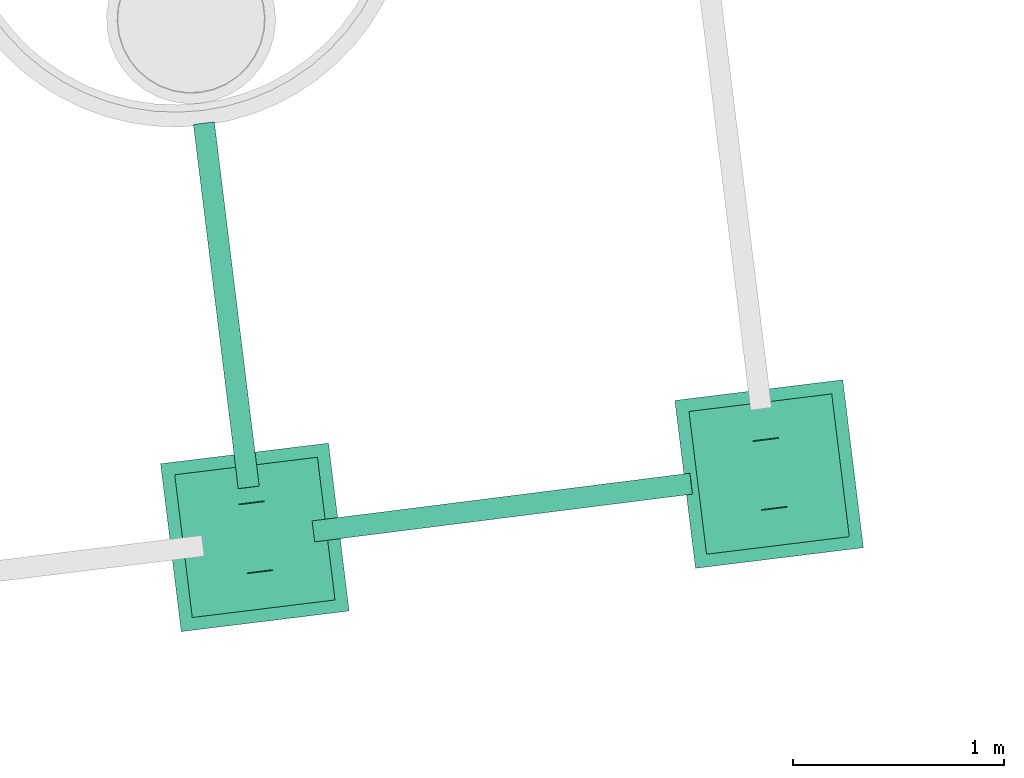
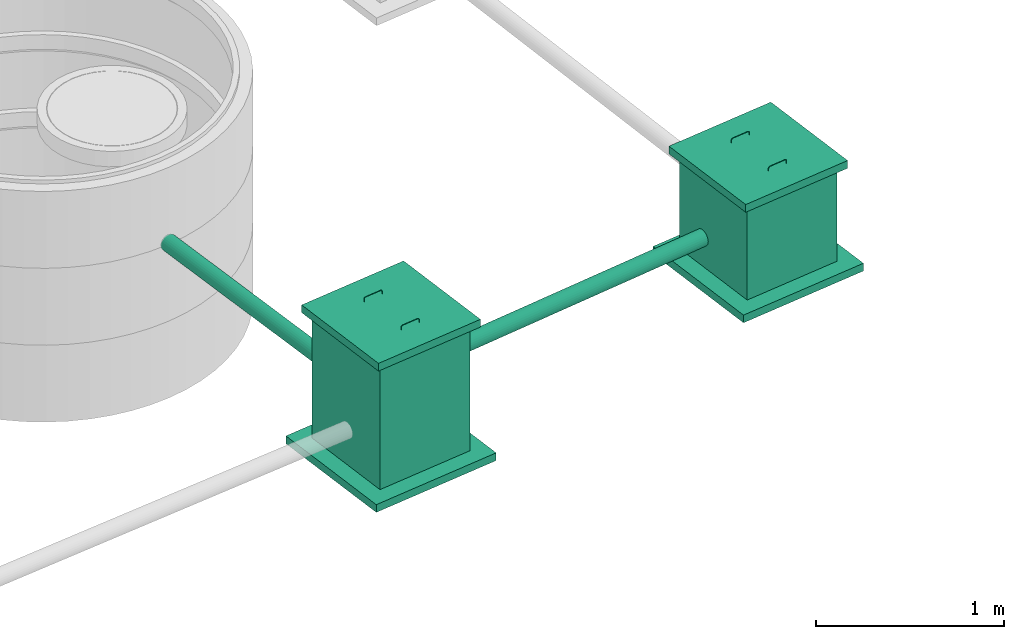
# One storey, part 6 of 97: 2 flow segments, 2 flow terminals.
"""IFC2X3 building model written with IfcOpenShell, lengths in centimetres."""

from ifc_helpers import new_model, entity, si_unit, converted_unit, derived_unit, direction, frame, frame_2d, origin, place, context, subcontext, project, spatial, circle, extrude, faceted_brep, source, transform, mapped, material, material_list, type_object, type_shapes, element, save


model = new_model("IFC2X3")

# Units and contexts
model_context = context("Model", 3, precision=0.001, world=origin(), true_north=direction((6.12303176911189e-17, 1.0)))
body_context = subcontext(model_context, "Body", "Model", "MODEL_VIEW")
ifc_project = project(units=[si_unit("LENGTHUNIT", "METRE", prefix="CENTI"), si_unit("AREAUNIT", "SQUARE_METRE"), si_unit("VOLUMEUNIT", "CUBIC_METRE"), converted_unit("PLANEANGLEUNIT", "DEGREE", entity("IfcRatioMeasure", 0.0174532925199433), si_unit("PLANEANGLEUNIT", "RADIAN"), dimensions=[0, 0, 0, 0, 0, 0, 0]), si_unit("MASSUNIT", "GRAM", prefix="KILO"), derived_unit("MASSDENSITYUNIT", [(si_unit("MASSUNIT", "GRAM", prefix="KILO"), 1), (si_unit("LENGTHUNIT", "METRE"), -3)]), derived_unit("MOMENTOFINERTIAUNIT", [(si_unit("LENGTHUNIT", "METRE"), 4)]), si_unit("TIMEUNIT", "SECOND"), si_unit("FREQUENCYUNIT", "HERTZ"), si_unit("THERMODYNAMICTEMPERATUREUNIT", "DEGREE_CELSIUS"), derived_unit("THERMALTRANSMITTANCEUNIT", [(si_unit("MASSUNIT", "GRAM", prefix="KILO"), 1), (si_unit("THERMODYNAMICTEMPERATUREUNIT", "KELVIN"), -1), (si_unit("TIMEUNIT", "SECOND"), -3)]), derived_unit("VOLUMETRICFLOWRATEUNIT", [(si_unit("LENGTHUNIT", "METRE"), 3), (si_unit("TIMEUNIT", "SECOND"), -1)]), si_unit("ELECTRICCURRENTUNIT", "AMPERE"), si_unit("ELECTRICVOLTAGEUNIT", "VOLT"), si_unit("POWERUNIT", "WATT"), si_unit("FORCEUNIT", "NEWTON", prefix="KILO"), si_unit("ILLUMINANCEUNIT", "LUX"), si_unit("LUMINOUSFLUXUNIT", "LUMEN"), si_unit("LUMINOUSINTENSITYUNIT", "CANDELA"), derived_unit("USERDEFINED", [(si_unit("MASSUNIT", "GRAM", prefix="KILO"), -1), (si_unit("LENGTHUNIT", "METRE"), -2), (si_unit("TIMEUNIT", "SECOND"), 3), (si_unit("LUMINOUSFLUXUNIT", "LUMEN"), 1)]), derived_unit("LINEARVELOCITYUNIT", [(si_unit("LENGTHUNIT", "METRE"), 1), (si_unit("TIMEUNIT", "SECOND"), -1)]), si_unit("PRESSUREUNIT", "PASCAL"), derived_unit("USERDEFINED", [(si_unit("LENGTHUNIT", "METRE"), -2), (si_unit("MASSUNIT", "GRAM", prefix="KILO"), 1), (si_unit("TIMEUNIT", "SECOND"), -2)]), derived_unit("LINEARFORCEUNIT", [(si_unit("MASSUNIT", "GRAM", prefix="KILO"), 1), (si_unit("LENGTHUNIT", "METRE"), 1), (si_unit("TIMEUNIT", "SECOND"), -2), (si_unit("LENGTHUNIT", "METRE"), -1)]), derived_unit("PLANARFORCEUNIT", [(si_unit("MASSUNIT", "GRAM", prefix="KILO"), 1), (si_unit("LENGTHUNIT", "METRE"), 1), (si_unit("TIMEUNIT", "SECOND"), -2), (si_unit("LENGTHUNIT", "METRE"), -2)])], contexts=[model_context])

# Site, building, storey
site_placement = place(None, origin())
site = spatial("IfcSite", under=ifc_project, at=site_placement, Name="Default", CompositionType="ELEMENT")
building_placement = place(site_placement, origin())
building = spatial("IfcBuilding", under=site, at=building_placement, Name="HIDROSSANITÁRIO", CompositionType="ELEMENT")
storey_placement = place(building_placement, frame((0.0, 0.0, -260.0)))
storey = spatial("IfcBuildingStorey", under=building, at=storey_placement, Name="TÉRREO-HID", CompositionType="ELEMENT", Elevation=-260.0)

# Flow segments
pipe_segment_type = type_object("IfcPipeSegmentType", Name="Tipos de tubos:Tubo - Esgoto - Série Normal", PredefinedType="NOTDEFINED")
flow_segment_1_placement = place(storey_placement, origin())
element("IfcFlowSegment", 1, at=flow_segment_1_placement, inside=storey, type_object=pipe_segment_type, Name="Tipos de tubos:Tubo - Esgoto - Série Normal", ObjectType="Tipos de tubos:Tubo - Esgoto - Série Normal", context=body_context, shape_type="SweptSolid", body=[
    extrude(circle(Radius=5.0, at=frame_2d((-1.35643314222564e-14, -1.07427899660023e-15), x_axis=(1.0, 0.0))), frame((574.677548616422, 2803.41653285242, -34.7999011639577), z_axis=(0.992073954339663, 0.125256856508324, 0.00999945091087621), x_axis=(-0.125263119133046, 0.992123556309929, 0.0)), (0.0, 0.0, 1.0), 180.000000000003),
])
flow_segment_2_placement = place(storey_placement, origin())
element("IfcFlowSegment", 2, at=flow_segment_2_placement, inside=storey, type_object=pipe_segment_type, Name="Tipos de tubos:Tubo - Esgoto - Série Normal", ObjectType="Tipos de tubos:Tubo - Esgoto - Série Normal", context=body_context, shape_type="SweptSolid", body=[
    extrude(circle(Radius=5.0, at=frame_2d((5.29099387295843e-14, 4.29881674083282e-15), x_axis=(1.0, 0.0))), frame((522.855228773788, 2996.38994779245, -58.7349132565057), z_axis=(0.122146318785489, -0.992461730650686, 0.00999950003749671), x_axis=(0.992511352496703, 0.122152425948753, 0.0)), (0.0, 0.0, 1.0), 173.500000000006),
])

# Flow terminals
ifc_material_1 = material(Name="<Unnamed>")
ifc_material_2 = material(Name="Concrete, Sand/Cement Screed")
ifc_material_3 = material(Name="Brick, Common, Grey")
ifc_material_list_1 = material_list([ifc_material_1, ifc_material_2, ifc_material_3])
ifc_material_list_2 = material_list([ifc_material_1, ifc_material_2, ifc_material_3])
distribution_element_type_1 = type_object("IfcDistributionElementType", Name="Caixa de Inspeção/Gordura:Alvenaria", material=ifc_material_list_2)
shared_shape_1 = source(origin(), body_context, "Body", "Brep", [
    faceted_brep([(-5.60146522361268, 16.5924553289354, 3.71042168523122), (-5.40613785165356, 16.3971279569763, 3.71042168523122), (-5.60146522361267, 16.2018005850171, 3.71042168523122), (-5.79679259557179, 16.3971279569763, 3.71042168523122), (6.39853477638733, 16.2018005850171, 3.71042168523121), (6.20320740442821, 16.3971279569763, 3.71042168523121), (6.39853477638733, 16.5924553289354, 3.71042168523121), (6.59386214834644, 16.3971279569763, 3.71042168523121), (-5.40613785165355, 16.3971279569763, 5.27042602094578), (-5.57070403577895, 16.2042380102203, 5.71042174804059), (-5.79679259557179, 16.3971279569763, 5.27042593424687), (-5.40613785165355, 16.3971279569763, 7.71042168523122), (-5.60146522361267, 16.2018005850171, 7.71042168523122), (-5.40613785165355, 16.3971279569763, 6.1504173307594), (-5.79679259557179, 16.3971279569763, 7.71042168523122), (-5.60146522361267, 16.5924553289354, 7.71042168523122), (-5.63222641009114, 16.5900179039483, 5.71042169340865), (-5.68947233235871, 16.5044482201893, 7.71042168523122), (-5.25102598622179, 16.2195619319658, 8.35998244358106), (-5.37993713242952, 16.2298951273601, 8.48889359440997), (-4.60146522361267, 16.3971279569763, 8.90574905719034), (-4.60146522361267, 16.2018005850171, 8.71042168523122), (-5.17045469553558, 16.3971279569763, 8.27941115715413), (-4.60146522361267, 16.3971279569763, 8.5150943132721), (-5.44668931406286, 16.3971279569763, 8.55564577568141), (-5.36898819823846, 16.5727768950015, 8.47794465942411), (-5.21737432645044, 16.5627205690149, 8.36172681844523), (-4.60146522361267, 16.5924553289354, 8.71042168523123), (0.518543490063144, 16.3971279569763, 8.90574905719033), (1.73854147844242, 16.2018005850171, 8.71042168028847), (2.95853913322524, 16.3971279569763, 8.90574905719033), (-0.76461087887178, 16.2018577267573, 8.71514602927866), (-2.16146960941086, 16.3971279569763, 8.5150943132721), (0.278526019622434, 16.3971279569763, 8.5150943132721), (0.398534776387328, 16.3971279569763, 8.5150943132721), (-2.16146958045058, 16.3971279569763, 8.90574905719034), (5.39853477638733, 16.2018005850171, 8.71042168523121), (5.39853477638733, 16.3971279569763, 8.90574905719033), (2.95853916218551, 16.3971279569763, 8.5150943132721), (5.39853477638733, 16.3971279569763, 8.51509431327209), (0.398534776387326, 16.3971279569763, 8.90574905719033), (1.56168082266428, 16.5923981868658, 8.70569732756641), (-0.941471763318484, 16.5924553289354, 8.71042168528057), (5.39853477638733, 16.5924553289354, 8.71042168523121), (5.39853477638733, 16.5044482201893, 8.79842879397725), (6.04809553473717, 16.2195619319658, 8.35998244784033), (6.17700668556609, 16.2298951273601, 8.48889359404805), (6.59386214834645, 16.3971279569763, 7.71042168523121), (6.39853477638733, 16.2018005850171, 7.71042168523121), (5.96752424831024, 16.3971279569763, 8.27941115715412), (6.20320740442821, 16.3971279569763, 7.71042168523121), (6.24375886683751, 16.3971279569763, 8.5556457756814), (6.16605775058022, 16.5727768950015, 8.477944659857), (6.04983990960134, 16.5627205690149, 8.32633078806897), (6.39853477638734, 16.5924553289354, 7.71042168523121), (6.20320740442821, 16.3971279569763, 6.15041734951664), (6.36777358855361, 16.2042380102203, 5.71042162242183), (6.59386214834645, 16.3971279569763, 6.15041743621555), (6.20320740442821, 16.3971279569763, 5.27042603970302), (6.4292959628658, 16.5900179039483, 5.71042167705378)], [[[0, 1, 2, 3]], [[4, 5, 6, 7]], [[8, 9, 2]], [[2, 10, 3]], [[10, 2, 9]], [[11, 12, 9]], [[8, 2, 1]], [[9, 8, 13, 11]], [[9, 12, 14]], [[14, 10, 9]], [[13, 15, 11]], [[0, 10, 16]], [[14, 16, 10]], [[10, 0, 3]], [[16, 13, 8, 1]], [[13, 16, 15]], [[1, 0, 16]], [[16, 14, 17, 15]], [[12, 18, 19]], [[20, 19, 21]], [[14, 12, 19]], [[11, 22, 18]], [[23, 21, 18]], [[14, 19, 24]], [[24, 19, 20]], [[23, 18, 22]], [[19, 18, 21]], [[11, 18, 12]], [[17, 14, 24]], [[25, 26, 15]], [[25, 15, 17]], [[11, 15, 26]], [[25, 27, 26]], [[20, 25, 24]], [[20, 27, 25]], [[26, 22, 11]], [[22, 26, 23]], [[17, 24, 25]], [[23, 26, 27]], [[28, 29, 30]], [[31, 32, 33, 34]], [[35, 20, 21]], [[36, 37, 30]], [[29, 28, 31]], [[38, 39, 36]], [[21, 23, 32]], [[34, 29, 31]], [[32, 31, 21]], [[30, 29, 36]], [[34, 38, 29]], [[36, 29, 38]], [[31, 28, 40, 35]], [[31, 35, 21]], [[40, 41, 42]], [[43, 39, 38]], [[27, 42, 33, 32, 23]], [[27, 20, 35, 40, 42]], [[30, 37, 44, 43]], [[38, 41, 43]], [[30, 43, 41]], [[42, 41, 33]], [[41, 40, 28, 30]], [[41, 38, 34, 33]], [[36, 45, 46]], [[47, 46, 48]], [[37, 36, 46]], [[39, 49, 45]], [[50, 48, 45]], [[37, 46, 51]], [[51, 46, 47]], [[50, 45, 49]], [[46, 45, 48]], [[39, 45, 36]], [[44, 37, 51]], [[52, 53, 43]], [[52, 43, 44]], [[39, 43, 53]], [[52, 54, 53]], [[47, 52, 51]], [[47, 54, 52]], [[53, 49, 39]], [[49, 53, 50]], [[44, 51, 52]], [[50, 53, 54]], [[55, 56, 48]], [[48, 57, 47]], [[57, 48, 56]], [[5, 4, 56]], [[55, 48, 50]], [[56, 55, 58, 5]], [[56, 4, 7]], [[7, 57, 56]], [[58, 6, 5]], [[54, 57, 59]], [[7, 59, 57]], [[57, 54, 47]], [[59, 58, 55, 50]], [[58, 59, 6]], [[50, 54, 59]], [[7, 6, 59]]]),
    faceted_brep([(-5.60146522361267, -16.5924553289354, 3.71042168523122), (-5.79679259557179, -16.3971279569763, 3.71042168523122), (-5.60146522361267, -16.2018005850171, 3.71042168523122), (-5.40613785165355, -16.3971279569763, 3.71042168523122), (6.39853477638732, -16.2018005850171, 3.71042168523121), (6.59386214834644, -16.3971279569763, 3.71042168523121), (6.39853477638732, -16.5924553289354, 3.71042168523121), (6.20320740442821, -16.3971279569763, 3.71042168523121), (-5.79679259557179, -16.3971279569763, 6.15041737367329), (-5.60146522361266, -16.5924553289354, 7.71042168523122), (-5.68947233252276, -16.5044482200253, 7.71042168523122), (-5.79679259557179, -16.3971279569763, 7.71042168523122), (-5.40613785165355, -16.3971279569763, 5.27042602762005), (-5.5707040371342, -16.5900179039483, 5.71042169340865), (-5.40613785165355, -16.3971279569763, 7.71042168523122), (-5.79679259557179, -16.3971279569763, 5.27042602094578), (-5.51345811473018, -16.5044482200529, 7.71042168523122), (-5.63222641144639, -16.2042380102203, 5.71042174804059), (-5.60146522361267, -16.2018005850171, 7.71042168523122), (-5.37028554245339, -16.5521831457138, 8.52319636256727), (-5.44668931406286, -16.3971279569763, 8.55564577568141), (-5.17045469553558, -16.3971279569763, 8.27941115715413), (-4.60146522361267, -16.3971279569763, 8.5150943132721), (-4.60146522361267, -16.5044482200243, 8.62241457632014), (-4.60146522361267, -16.5924553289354, 8.71042168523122), (-4.60146522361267, -16.5044482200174, 8.79842879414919), (-5.27261908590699, -16.5857215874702, 8.3815755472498), (-4.60146522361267, -16.3971279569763, 8.90574905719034), (-5.23720687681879, -16.2298951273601, 8.34616333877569), (-4.60146522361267, -16.2018005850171, 8.71042168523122), (-5.36611802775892, -16.2195619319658, 8.4750744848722), (0.398534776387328, -16.3971279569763, 8.5150943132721), (1.56168082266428, -16.5923981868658, 8.71514604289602), (-0.941471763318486, -16.5924553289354, 8.71042168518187), (2.95853912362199, -16.3971279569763, 8.90574905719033), (5.39853477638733, -16.5924553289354, 8.71042168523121), (5.39853477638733, -16.5044482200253, 8.7984287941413), (5.39853477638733, -16.3971279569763, 8.90574905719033), (0.278526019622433, -16.3971279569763, 8.90574905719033), (-2.16146957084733, -16.3971279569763, 8.90574905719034), (-2.16146960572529, -16.3971279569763, 8.5150943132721), (2.95853915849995, -16.3971279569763, 8.51509431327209), (5.39853477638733, -16.3971279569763, 8.51509431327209), (5.39853477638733, -16.5044482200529, 8.62241457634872), (0.518543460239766, -16.3971279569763, 8.5150943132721), (0.398534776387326, -16.3971279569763, 8.90574905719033), (1.73854147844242, -16.2018005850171, 8.71042169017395), (-0.76461087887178, -16.2018577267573, 8.70569734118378), (5.39853477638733, -16.2018005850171, 8.71042168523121), (6.21130945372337, -16.5521831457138, 8.47924200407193), (6.24375886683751, -16.3971279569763, 8.5556457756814), (5.96752424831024, -16.3971279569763, 8.27941115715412), (6.20320740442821, -16.3971279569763, 7.71042168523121), (6.31052766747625, -16.5044482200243, 7.71042168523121), (6.39853477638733, -16.5924553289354, 7.71042168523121), (6.4865418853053, -16.5044482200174, 7.71042168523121), (6.06968863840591, -16.5857215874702, 8.38157554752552), (6.59386214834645, -16.3971279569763, 7.71042168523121), (6.03427642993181, -16.2298951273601, 8.34616333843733), (6.39853477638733, -16.2018005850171, 7.71042168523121), (6.16318757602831, -16.2195619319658, 8.47507448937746), (6.59386214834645, -16.3971279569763, 5.27042599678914), (6.20320740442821, -16.3971279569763, 6.15041726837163), (6.36777358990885, -16.5900179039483, 5.71042167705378), (6.59386214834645, -16.3971279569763, 6.15041734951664), (6.42929596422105, -16.2042380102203, 5.71042162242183)], [[[0, 1, 2, 3]], [[4, 5, 6, 7]], [[8, 9, 10, 11]], [[0, 12, 13]], [[14, 13, 12]], [[12, 0, 3]], [[13, 8, 15, 1]], [[8, 13, 9]], [[1, 0, 13]], [[13, 14, 16, 9]], [[15, 17, 2]], [[2, 12, 3]], [[12, 2, 17]], [[11, 18, 17]], [[15, 2, 1]], [[17, 15, 8, 11]], [[17, 18, 14]], [[14, 12, 17]], [[19, 10, 9]], [[10, 19, 20]], [[21, 22, 23]], [[24, 25, 19]], [[24, 26, 23]], [[24, 19, 26]], [[16, 26, 9]], [[20, 25, 27]], [[20, 11, 10]], [[23, 26, 21]], [[19, 25, 20]], [[14, 21, 16]], [[26, 19, 9]], [[26, 16, 21]], [[22, 28, 29]], [[18, 30, 28]], [[14, 28, 21]], [[14, 18, 28]], [[11, 20, 30]], [[27, 30, 20]], [[27, 29, 30]], [[11, 30, 18]], [[21, 28, 22]], [[28, 30, 29]], [[31, 32, 33]], [[34, 35, 36, 37]], [[24, 33, 38, 39, 27, 25]], [[40, 31, 33, 24, 23, 22]], [[41, 42, 43, 35]], [[34, 32, 35]], [[41, 35, 32]], [[33, 32, 38]], [[32, 31, 44, 41]], [[32, 34, 45, 38]], [[44, 46, 41]], [[47, 39, 38, 45]], [[40, 22, 29]], [[48, 42, 41]], [[46, 44, 47]], [[34, 37, 48]], [[29, 27, 39]], [[45, 46, 47]], [[39, 47, 29]], [[41, 46, 48]], [[45, 34, 46]], [[48, 46, 34]], [[47, 44, 31, 40]], [[47, 40, 29]], [[49, 36, 35]], [[36, 49, 50]], [[51, 52, 53]], [[54, 55, 49]], [[54, 56, 53]], [[54, 49, 56]], [[43, 56, 35]], [[50, 55, 57]], [[50, 37, 36]], [[53, 56, 51]], [[49, 55, 50]], [[42, 51, 43]], [[56, 49, 35]], [[56, 43, 51]], [[52, 58, 59]], [[48, 60, 58]], [[42, 58, 51]], [[42, 48, 58]], [[37, 50, 60]], [[57, 60, 50]], [[57, 59, 60]], [[37, 60, 48]], [[51, 58, 52]], [[58, 60, 59]], [[61, 6, 5]], [[54, 62, 63]], [[7, 63, 62]], [[62, 54, 53, 52]], [[63, 61, 64, 57]], [[61, 63, 6]], [[63, 57, 55, 54]], [[7, 6, 63]], [[64, 65, 59]], [[59, 62, 52]], [[62, 59, 65]], [[5, 4, 65]], [[64, 59, 57]], [[65, 64, 61, 5]], [[65, 4, 7]], [[7, 62, 65]]]),
    faceted_brep([(34.0, 34.0, 6.0), (-34.0, 34.0, 6.0), (-34.0, -34.0, 6.0), (34.0, -34.0, 6.0), (34.0, 34.0, 1.0), (34.0, -34.0, 1.0), (-34.0, -34.0, 1.0), (-34.0, 34.0, 1.0)], [[[0, 1, 2, 3]], [[4, 5, 6, 7]], [[1, 0, 4, 7]], [[2, 1, 7, 6]], [[3, 2, 6, 5]], [[0, 3, 5, 4]]]),
    faceted_brep([(40.0, 40.0, -60.0), (-40.0, 40.0, -60.0), (-40.0, -40.0, -60.0), (40.0, -40.0, -60.0), (40.0, 40.0, -65.0), (40.0, -40.0, -65.0), (-40.0, -40.0, -65.0), (-40.0, 40.0, -65.0)], [[[0, 1, 2, 3]], [[4, 5, 6, 7]], [[1, 0, 4, 7]], [[2, 1, 7, 6]], [[3, 2, 6, 5]], [[0, 3, 5, 4]]]),
    faceted_brep([(25.0, 25.0, 1.0), (25.0, -25.0, 1.0), (-25.0, -25.0, 1.0), (-25.0, 25.0, 1.0), (30.0, 30.0, 1.0), (-30.0, 30.0, 1.0), (-30.0, -30.0, 1.0), (30.0, -30.0, 1.0), (25.0, 25.0, -60.0), (-25.0, 25.0, -60.0), (-25.0, -25.0, -60.0), (25.0, -25.0, -60.0), (30.0, 30.0, -60.0), (30.0, -30.0, -60.0), (-30.0, -30.0, -60.0), (-30.0, 30.0, -60.0)], [[[0, 1, 2, 3], [4, 5, 6, 7]], [[8, 9, 10, 11], [12, 13, 14, 15]], [[1, 0, 8, 11]], [[2, 1, 11, 10]], [[3, 2, 10, 9]], [[0, 3, 9, 8]], [[5, 4, 12, 15]], [[6, 5, 15, 14]], [[7, 6, 14, 13]], [[4, 7, 13, 12]]], outer=[[False, True], [False, True], [True], [True], [True], [True], [True], [True], [True], [True]]),
])
type_shapes(distribution_element_type_1, [shared_shape_1])
flow_terminal_1_placement = place(storey_placement, frame((790.120487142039, 2830.50046257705, 0.0), z_axis=(0.0, 0.0, 1.0), x_axis=(0.992511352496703, 0.122152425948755, 0.0)))
element("IfcFlowTerminal", 3, at=flow_terminal_1_placement, inside=storey, type_object=distribution_element_type_1, material=ifc_material_list_1, Name="Caixa de Inspeção/Gordura:Alvenaria", ObjectType="Caixa de Inspeção/Gordura:Alvenaria", context=body_context, shape_type="MappedRepresentation", body=[
    mapped(shared_shape_1, transform((0.0, 0.0, 0.0), scale=1.0)),
])
ifc_material_list_3 = material_list([ifc_material_1, ifc_material_2, ifc_material_3])
ifc_material_list_4 = material_list([ifc_material_1, ifc_material_2, ifc_material_3])
distribution_element_type_2 = type_object("IfcDistributionElementType", Name="Caixa de Inspeção/Gordura:Alvenaria", material=ifc_material_list_4)
shared_shape_2 = source(origin(), body_context, "Body", "Brep", [
    faceted_brep([(-5.60146522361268, 16.5924553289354, 3.71042168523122), (-5.40613785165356, 16.3971279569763, 3.71042168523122), (-5.60146522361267, 16.2018005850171, 3.71042168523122), (-5.79679259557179, 16.3971279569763, 3.71042168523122), (6.39853477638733, 16.2018005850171, 3.71042168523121), (6.20320740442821, 16.3971279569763, 3.71042168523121), (6.39853477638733, 16.5924553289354, 3.71042168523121), (6.59386214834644, 16.3971279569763, 3.71042168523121), (-5.40613785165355, 16.3971279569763, 5.27042602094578), (-5.57070403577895, 16.2042380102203, 5.71042174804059), (-5.79679259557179, 16.3971279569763, 5.27042593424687), (-5.40613785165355, 16.3971279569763, 7.71042168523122), (-5.60146522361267, 16.2018005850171, 7.71042168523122), (-5.40613785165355, 16.3971279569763, 6.1504173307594), (-5.79679259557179, 16.3971279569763, 7.71042168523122), (-5.60146522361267, 16.5924553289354, 7.71042168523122), (-5.63222641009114, 16.5900179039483, 5.71042169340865), (-5.68947233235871, 16.5044482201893, 7.71042168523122), (-5.25102598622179, 16.2195619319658, 8.35998244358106), (-5.37993713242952, 16.2298951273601, 8.48889359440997), (-4.60146522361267, 16.3971279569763, 8.90574905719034), (-4.60146522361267, 16.2018005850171, 8.71042168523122), (-5.17045469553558, 16.3971279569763, 8.27941115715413), (-4.60146522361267, 16.3971279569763, 8.5150943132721), (-5.44668931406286, 16.3971279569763, 8.55564577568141), (-5.36898819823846, 16.5727768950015, 8.47794465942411), (-5.21737432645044, 16.5627205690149, 8.36172681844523), (-4.60146522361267, 16.5924553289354, 8.71042168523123), (0.518543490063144, 16.3971279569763, 8.90574905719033), (1.73854147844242, 16.2018005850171, 8.71042168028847), (2.95853913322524, 16.3971279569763, 8.90574905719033), (-0.76461087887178, 16.2018577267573, 8.71514602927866), (-2.16146960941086, 16.3971279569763, 8.5150943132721), (0.278526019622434, 16.3971279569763, 8.5150943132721), (0.398534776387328, 16.3971279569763, 8.5150943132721), (-2.16146958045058, 16.3971279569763, 8.90574905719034), (5.39853477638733, 16.2018005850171, 8.71042168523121), (5.39853477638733, 16.3971279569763, 8.90574905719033), (2.95853916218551, 16.3971279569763, 8.5150943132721), (5.39853477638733, 16.3971279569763, 8.51509431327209), (0.398534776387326, 16.3971279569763, 8.90574905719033), (1.56168082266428, 16.5923981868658, 8.70569732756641), (-0.941471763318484, 16.5924553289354, 8.71042168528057), (5.39853477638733, 16.5924553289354, 8.71042168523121), (5.39853477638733, 16.5044482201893, 8.79842879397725), (6.04809553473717, 16.2195619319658, 8.35998244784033), (6.17700668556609, 16.2298951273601, 8.48889359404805), (6.59386214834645, 16.3971279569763, 7.71042168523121), (6.39853477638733, 16.2018005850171, 7.71042168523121), (5.96752424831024, 16.3971279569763, 8.27941115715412), (6.20320740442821, 16.3971279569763, 7.71042168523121), (6.24375886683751, 16.3971279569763, 8.5556457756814), (6.16605775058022, 16.5727768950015, 8.477944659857), (6.04983990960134, 16.5627205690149, 8.32633078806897), (6.39853477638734, 16.5924553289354, 7.71042168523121), (6.20320740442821, 16.3971279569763, 6.15041734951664), (6.36777358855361, 16.2042380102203, 5.71042162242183), (6.59386214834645, 16.3971279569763, 6.15041743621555), (6.20320740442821, 16.3971279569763, 5.27042603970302), (6.4292959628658, 16.5900179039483, 5.71042167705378)], [[[0, 1, 2, 3]], [[4, 5, 6, 7]], [[8, 9, 2]], [[2, 10, 3]], [[10, 2, 9]], [[11, 12, 9]], [[8, 2, 1]], [[9, 8, 13, 11]], [[9, 12, 14]], [[14, 10, 9]], [[13, 15, 11]], [[0, 10, 16]], [[14, 16, 10]], [[10, 0, 3]], [[16, 13, 8, 1]], [[13, 16, 15]], [[1, 0, 16]], [[16, 14, 17, 15]], [[12, 18, 19]], [[20, 19, 21]], [[14, 12, 19]], [[11, 22, 18]], [[23, 21, 18]], [[14, 19, 24]], [[24, 19, 20]], [[23, 18, 22]], [[19, 18, 21]], [[11, 18, 12]], [[17, 14, 24]], [[25, 26, 15]], [[25, 15, 17]], [[11, 15, 26]], [[25, 27, 26]], [[20, 25, 24]], [[20, 27, 25]], [[26, 22, 11]], [[22, 26, 23]], [[17, 24, 25]], [[23, 26, 27]], [[28, 29, 30]], [[31, 32, 33, 34]], [[35, 20, 21]], [[36, 37, 30]], [[29, 28, 31]], [[38, 39, 36]], [[21, 23, 32]], [[34, 29, 31]], [[32, 31, 21]], [[30, 29, 36]], [[34, 38, 29]], [[36, 29, 38]], [[31, 28, 40, 35]], [[31, 35, 21]], [[40, 41, 42]], [[43, 39, 38]], [[27, 42, 33, 32, 23]], [[27, 20, 35, 40, 42]], [[30, 37, 44, 43]], [[38, 41, 43]], [[30, 43, 41]], [[42, 41, 33]], [[41, 40, 28, 30]], [[41, 38, 34, 33]], [[36, 45, 46]], [[47, 46, 48]], [[37, 36, 46]], [[39, 49, 45]], [[50, 48, 45]], [[37, 46, 51]], [[51, 46, 47]], [[50, 45, 49]], [[46, 45, 48]], [[39, 45, 36]], [[44, 37, 51]], [[52, 53, 43]], [[52, 43, 44]], [[39, 43, 53]], [[52, 54, 53]], [[47, 52, 51]], [[47, 54, 52]], [[53, 49, 39]], [[49, 53, 50]], [[44, 51, 52]], [[50, 53, 54]], [[55, 56, 48]], [[48, 57, 47]], [[57, 48, 56]], [[5, 4, 56]], [[55, 48, 50]], [[56, 55, 58, 5]], [[56, 4, 7]], [[7, 57, 56]], [[58, 6, 5]], [[54, 57, 59]], [[7, 59, 57]], [[57, 54, 47]], [[59, 58, 55, 50]], [[58, 59, 6]], [[50, 54, 59]], [[7, 6, 59]]]),
    faceted_brep([(-5.60146522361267, -16.5924553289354, 3.71042168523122), (-5.79679259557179, -16.3971279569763, 3.71042168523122), (-5.60146522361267, -16.2018005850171, 3.71042168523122), (-5.40613785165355, -16.3971279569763, 3.71042168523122), (6.39853477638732, -16.2018005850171, 3.71042168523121), (6.59386214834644, -16.3971279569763, 3.71042168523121), (6.39853477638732, -16.5924553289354, 3.71042168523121), (6.20320740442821, -16.3971279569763, 3.71042168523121), (-5.79679259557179, -16.3971279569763, 6.15041737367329), (-5.60146522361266, -16.5924553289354, 7.71042168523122), (-5.68947233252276, -16.5044482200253, 7.71042168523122), (-5.79679259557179, -16.3971279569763, 7.71042168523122), (-5.40613785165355, -16.3971279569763, 5.27042602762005), (-5.5707040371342, -16.5900179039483, 5.71042169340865), (-5.40613785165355, -16.3971279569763, 7.71042168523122), (-5.79679259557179, -16.3971279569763, 5.27042602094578), (-5.51345811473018, -16.5044482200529, 7.71042168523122), (-5.63222641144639, -16.2042380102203, 5.71042174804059), (-5.60146522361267, -16.2018005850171, 7.71042168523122), (-5.37028554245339, -16.5521831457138, 8.52319636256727), (-5.44668931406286, -16.3971279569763, 8.55564577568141), (-5.17045469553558, -16.3971279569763, 8.27941115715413), (-4.60146522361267, -16.3971279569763, 8.5150943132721), (-4.60146522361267, -16.5044482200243, 8.62241457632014), (-4.60146522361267, -16.5924553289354, 8.71042168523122), (-4.60146522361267, -16.5044482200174, 8.79842879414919), (-5.27261908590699, -16.5857215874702, 8.3815755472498), (-4.60146522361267, -16.3971279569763, 8.90574905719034), (-5.23720687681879, -16.2298951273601, 8.34616333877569), (-4.60146522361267, -16.2018005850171, 8.71042168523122), (-5.36611802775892, -16.2195619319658, 8.4750744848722), (0.398534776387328, -16.3971279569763, 8.5150943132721), (1.56168082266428, -16.5923981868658, 8.71514604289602), (-0.941471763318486, -16.5924553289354, 8.71042168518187), (2.95853912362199, -16.3971279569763, 8.90574905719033), (5.39853477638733, -16.5924553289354, 8.71042168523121), (5.39853477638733, -16.5044482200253, 8.7984287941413), (5.39853477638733, -16.3971279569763, 8.90574905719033), (0.278526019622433, -16.3971279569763, 8.90574905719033), (-2.16146957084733, -16.3971279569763, 8.90574905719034), (-2.16146960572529, -16.3971279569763, 8.5150943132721), (2.95853915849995, -16.3971279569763, 8.51509431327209), (5.39853477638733, -16.3971279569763, 8.51509431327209), (5.39853477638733, -16.5044482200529, 8.62241457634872), (0.518543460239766, -16.3971279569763, 8.5150943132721), (0.398534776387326, -16.3971279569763, 8.90574905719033), (1.73854147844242, -16.2018005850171, 8.71042169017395), (-0.76461087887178, -16.2018577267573, 8.70569734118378), (5.39853477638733, -16.2018005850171, 8.71042168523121), (6.21130945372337, -16.5521831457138, 8.47924200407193), (6.24375886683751, -16.3971279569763, 8.5556457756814), (5.96752424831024, -16.3971279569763, 8.27941115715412), (6.20320740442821, -16.3971279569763, 7.71042168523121), (6.31052766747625, -16.5044482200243, 7.71042168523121), (6.39853477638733, -16.5924553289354, 7.71042168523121), (6.4865418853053, -16.5044482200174, 7.71042168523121), (6.06968863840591, -16.5857215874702, 8.38157554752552), (6.59386214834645, -16.3971279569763, 7.71042168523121), (6.03427642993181, -16.2298951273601, 8.34616333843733), (6.39853477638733, -16.2018005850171, 7.71042168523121), (6.16318757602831, -16.2195619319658, 8.47507448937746), (6.59386214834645, -16.3971279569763, 5.27042599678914), (6.20320740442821, -16.3971279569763, 6.15041726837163), (6.36777358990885, -16.5900179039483, 5.71042167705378), (6.59386214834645, -16.3971279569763, 6.15041734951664), (6.42929596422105, -16.2042380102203, 5.71042162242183)], [[[0, 1, 2, 3]], [[4, 5, 6, 7]], [[8, 9, 10, 11]], [[0, 12, 13]], [[14, 13, 12]], [[12, 0, 3]], [[13, 8, 15, 1]], [[8, 13, 9]], [[1, 0, 13]], [[13, 14, 16, 9]], [[15, 17, 2]], [[2, 12, 3]], [[12, 2, 17]], [[11, 18, 17]], [[15, 2, 1]], [[17, 15, 8, 11]], [[17, 18, 14]], [[14, 12, 17]], [[19, 10, 9]], [[10, 19, 20]], [[21, 22, 23]], [[24, 25, 19]], [[24, 26, 23]], [[24, 19, 26]], [[16, 26, 9]], [[20, 25, 27]], [[20, 11, 10]], [[23, 26, 21]], [[19, 25, 20]], [[14, 21, 16]], [[26, 19, 9]], [[26, 16, 21]], [[22, 28, 29]], [[18, 30, 28]], [[14, 28, 21]], [[14, 18, 28]], [[11, 20, 30]], [[27, 30, 20]], [[27, 29, 30]], [[11, 30, 18]], [[21, 28, 22]], [[28, 30, 29]], [[31, 32, 33]], [[34, 35, 36, 37]], [[24, 33, 38, 39, 27, 25]], [[40, 31, 33, 24, 23, 22]], [[41, 42, 43, 35]], [[34, 32, 35]], [[41, 35, 32]], [[33, 32, 38]], [[32, 31, 44, 41]], [[32, 34, 45, 38]], [[44, 46, 41]], [[47, 39, 38, 45]], [[40, 22, 29]], [[48, 42, 41]], [[46, 44, 47]], [[34, 37, 48]], [[29, 27, 39]], [[45, 46, 47]], [[39, 47, 29]], [[41, 46, 48]], [[45, 34, 46]], [[48, 46, 34]], [[47, 44, 31, 40]], [[47, 40, 29]], [[49, 36, 35]], [[36, 49, 50]], [[51, 52, 53]], [[54, 55, 49]], [[54, 56, 53]], [[54, 49, 56]], [[43, 56, 35]], [[50, 55, 57]], [[50, 37, 36]], [[53, 56, 51]], [[49, 55, 50]], [[42, 51, 43]], [[56, 49, 35]], [[56, 43, 51]], [[52, 58, 59]], [[48, 60, 58]], [[42, 58, 51]], [[42, 48, 58]], [[37, 50, 60]], [[57, 60, 50]], [[57, 59, 60]], [[37, 60, 48]], [[51, 58, 52]], [[58, 60, 59]], [[61, 6, 5]], [[54, 62, 63]], [[7, 63, 62]], [[62, 54, 53, 52]], [[63, 61, 64, 57]], [[61, 63, 6]], [[63, 57, 55, 54]], [[7, 6, 63]], [[64, 65, 59]], [[59, 62, 52]], [[62, 59, 65]], [[5, 4, 65]], [[64, 59, 57]], [[65, 64, 61, 5]], [[65, 4, 7]], [[7, 62, 65]]]),
    faceted_brep([(34.0, 34.0, 6.0), (-34.0, 34.0, 6.0), (-34.0, -34.0, 6.0), (34.0, -34.0, 6.0), (34.0, 34.0, 1.0), (34.0, -34.0, 1.0), (-34.0, -34.0, 1.0), (-34.0, 34.0, 1.0)], [[[0, 1, 2, 3]], [[4, 5, 6, 7]], [[1, 0, 4, 7]], [[2, 1, 7, 6]], [[3, 2, 6, 5]], [[0, 3, 5, 4]]]),
    faceted_brep([(40.0, 40.0, -80.0), (-40.0, 40.0, -80.0), (-40.0, -40.0, -80.0), (40.0, -40.0, -80.0), (40.0, 40.0, -85.0), (40.0, -40.0, -85.0), (-40.0, -40.0, -85.0), (-40.0, 40.0, -85.0)], [[[0, 1, 2, 3]], [[4, 5, 6, 7]], [[1, 0, 4, 7]], [[2, 1, 7, 6]], [[3, 2, 6, 5]], [[0, 3, 5, 4]]]),
    faceted_brep([(25.0, 25.0, 1.0), (25.0, -25.0, 1.0), (-25.0, -25.0, 1.0), (-25.0, 25.0, 1.0), (30.0, 30.0, 1.0), (-30.0, 30.0, 1.0), (-30.0, -30.0, 1.0), (30.0, -30.0, 1.0), (25.0, 25.0, -80.0), (-25.0, 25.0, -80.0), (-25.0, -25.0, -80.0), (25.0, -25.0, -80.0), (30.0, 30.0, -80.0), (30.0, -30.0, -80.0), (-30.0, -30.0, -80.0), (-30.0, 30.0, -80.0)], [[[0, 1, 2, 3], [4, 5, 6, 7]], [[8, 9, 10, 11], [12, 13, 14, 15]], [[1, 0, 8, 11]], [[2, 1, 11, 10]], [[3, 2, 10, 9]], [[0, 3, 9, 8]], [[5, 4, 12, 15]], [[6, 5, 15, 14]], [[7, 6, 14, 13]], [[4, 7, 13, 12]]], outer=[[False, True], [False, True], [True], [True], [True], [True], [True], [True], [True], [True]]),
])
type_shapes(distribution_element_type_2, [shared_shape_2])
flow_terminal_2_placement = place(storey_placement, frame((546.955205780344, 2800.57311821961, 0.0), z_axis=(0.0, 0.0, 1.0), x_axis=(0.992511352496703, 0.122152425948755, 0.0)))
element("IfcFlowTerminal", 4, at=flow_terminal_2_placement, inside=storey, type_object=distribution_element_type_2, material=ifc_material_list_3, Name="Caixa de Inspeção/Gordura:Alvenaria", ObjectType="Caixa de Inspeção/Gordura:Alvenaria", context=body_context, shape_type="MappedRepresentation", body=[
    mapped(shared_shape_2, transform((0.0, 0.0, 0.0), scale=1.0)),
])

save(model, "model.ifc")
